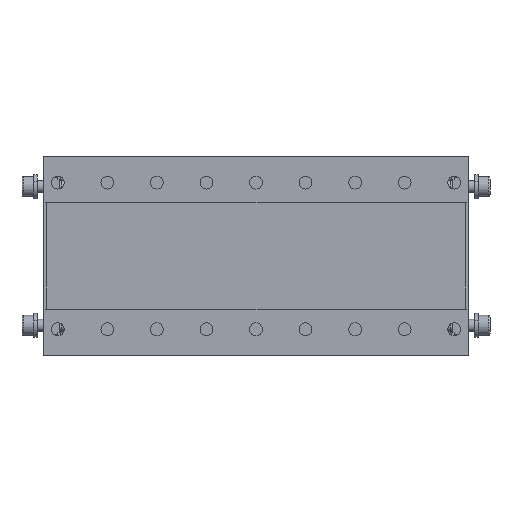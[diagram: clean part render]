
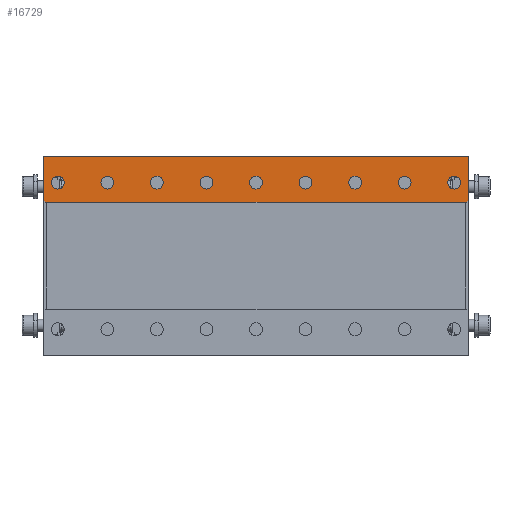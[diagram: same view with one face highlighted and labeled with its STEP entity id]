
A CAD part, top view. The second image highlights one B-rep face of the part: STEP entity #16729.
In plain terms, the highlighted planar face has unit normal (0, 0, 1).
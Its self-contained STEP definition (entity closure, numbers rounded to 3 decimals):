
#8851 = VERTEX_POINT('',#8852);
#8852 = CARTESIAN_POINT('',(107.,50.,30.));
#8858 = EDGE_CURVE('',#8859,#8851,#8861,.T.);
#8859 = VERTEX_POINT('',#8860);
#8860 = CARTESIAN_POINT('',(-107.,50.,30.));
#8861 = LINE('',#8862,#8863);
#8862 = CARTESIAN_POINT('',(0.,50.,30.));
#8863 = VECTOR('',#8864,1.);
#8864 = DIRECTION('',(1.,0.,0.));
#15675 = VERTEX_POINT('',#15676);
#15676 = CARTESIAN_POINT('',(107.,28.,30.));
#15682 = EDGE_CURVE('',#8851,#15675,#15683,.T.);
#15683 = LINE('',#15684,#15685);
#15684 = CARTESIAN_POINT('',(107.,50.,30.));
#15685 = VECTOR('',#15686,1.);
#15686 = DIRECTION('',(0.,-1.,0.));
#15699 = EDGE_CURVE('',#15700,#8859,#15702,.T.);
#15700 = VERTEX_POINT('',#15701);
#15701 = CARTESIAN_POINT('',(-107.,28.,30.));
#15702 = LINE('',#15703,#15704);
#15703 = CARTESIAN_POINT('',(-107.,28.,30.));
#15704 = VECTOR('',#15705,1.);
#15705 = DIRECTION('',(0.,1.,0.));
#16729 = ADVANCED_FACE('',(#16730,#16757,#16768,#16779,#16790,#16801,
    #16812,#16823,#16834,#16845),#16856,.F.);
#16730 = FACE_BOUND('',#16731,.F.);
#16731 = EDGE_LOOP('',(#16732,#16733,#16741,#16749,#16755,#16756));
#16732 = ORIENTED_EDGE('',*,*,#15682,.T.);
#16733 = ORIENTED_EDGE('',*,*,#16734,.F.);
#16734 = EDGE_CURVE('',#16735,#15675,#16737,.T.);
#16735 = VERTEX_POINT('',#16736);
#16736 = CARTESIAN_POINT('',(106.,27.,30.));
#16737 = LINE('',#16738,#16739);
#16738 = CARTESIAN_POINT('',(107.,28.,30.));
#16739 = VECTOR('',#16740,1.);
#16740 = DIRECTION('',(0.707,0.707,0.
    ));
#16741 = ORIENTED_EDGE('',*,*,#16742,.F.);
#16742 = EDGE_CURVE('',#16743,#16735,#16745,.T.);
#16743 = VERTEX_POINT('',#16744);
#16744 = CARTESIAN_POINT('',(-106.,27.,30.));
#16745 = LINE('',#16746,#16747);
#16746 = CARTESIAN_POINT('',(0.,27.,30.));
#16747 = VECTOR('',#16748,1.);
#16748 = DIRECTION('',(1.,0.,0.));
#16749 = ORIENTED_EDGE('',*,*,#16750,.F.);
#16750 = EDGE_CURVE('',#15700,#16743,#16751,.T.);
#16751 = LINE('',#16752,#16753);
#16752 = CARTESIAN_POINT('',(-106.,27.,30.));
#16753 = VECTOR('',#16754,1.);
#16754 = DIRECTION('',(0.707,-0.707,0.
    ));
#16755 = ORIENTED_EDGE('',*,*,#15699,.T.);
#16756 = ORIENTED_EDGE('',*,*,#8858,.T.);
#16757 = FACE_BOUND('',#16758,.F.);
#16758 = EDGE_LOOP('',(#16759));
#16759 = ORIENTED_EDGE('',*,*,#16760,.F.);
#16760 = EDGE_CURVE('',#16761,#16761,#16763,.T.);
#16761 = VERTEX_POINT('',#16762);
#16762 = CARTESIAN_POINT('',(103.25,37.,30.));
#16763 = CIRCLE('',#16764,3.25);
#16764 = AXIS2_PLACEMENT_3D('',#16765,#16766,#16767);
#16765 = CARTESIAN_POINT('',(100.,37.,30.));
#16766 = DIRECTION('',(0.,0.,-1.));
#16767 = DIRECTION('',(1.,0.,0.));
#16768 = FACE_BOUND('',#16769,.F.);
#16769 = EDGE_LOOP('',(#16770));
#16770 = ORIENTED_EDGE('',*,*,#16771,.F.);
#16771 = EDGE_CURVE('',#16772,#16772,#16774,.T.);
#16772 = VERTEX_POINT('',#16773);
#16773 = CARTESIAN_POINT('',(-96.75,37.,30.));
#16774 = CIRCLE('',#16775,3.25);
#16775 = AXIS2_PLACEMENT_3D('',#16776,#16777,#16778);
#16776 = CARTESIAN_POINT('',(-100.,37.,30.));
#16777 = DIRECTION('',(0.,0.,-1.));
#16778 = DIRECTION('',(1.,0.,0.));
#16779 = FACE_BOUND('',#16780,.F.);
#16780 = EDGE_LOOP('',(#16781));
#16781 = ORIENTED_EDGE('',*,*,#16782,.F.);
#16782 = EDGE_CURVE('',#16783,#16783,#16785,.T.);
#16783 = VERTEX_POINT('',#16784);
#16784 = CARTESIAN_POINT('',(-71.75,37.,30.));
#16785 = CIRCLE('',#16786,3.25);
#16786 = AXIS2_PLACEMENT_3D('',#16787,#16788,#16789);
#16787 = CARTESIAN_POINT('',(-75.,37.,30.));
#16788 = DIRECTION('',(0.,0.,-1.));
#16789 = DIRECTION('',(1.,0.,0.));
#16790 = FACE_BOUND('',#16791,.F.);
#16791 = EDGE_LOOP('',(#16792));
#16792 = ORIENTED_EDGE('',*,*,#16793,.F.);
#16793 = EDGE_CURVE('',#16794,#16794,#16796,.T.);
#16794 = VERTEX_POINT('',#16795);
#16795 = CARTESIAN_POINT('',(-46.75,37.,30.));
#16796 = CIRCLE('',#16797,3.25);
#16797 = AXIS2_PLACEMENT_3D('',#16798,#16799,#16800);
#16798 = CARTESIAN_POINT('',(-50.,37.,30.));
#16799 = DIRECTION('',(0.,0.,-1.));
#16800 = DIRECTION('',(1.,0.,0.));
#16801 = FACE_BOUND('',#16802,.F.);
#16802 = EDGE_LOOP('',(#16803));
#16803 = ORIENTED_EDGE('',*,*,#16804,.F.);
#16804 = EDGE_CURVE('',#16805,#16805,#16807,.T.);
#16805 = VERTEX_POINT('',#16806);
#16806 = CARTESIAN_POINT('',(-21.75,37.,30.));
#16807 = CIRCLE('',#16808,3.25);
#16808 = AXIS2_PLACEMENT_3D('',#16809,#16810,#16811);
#16809 = CARTESIAN_POINT('',(-25.,37.,30.));
#16810 = DIRECTION('',(0.,0.,-1.));
#16811 = DIRECTION('',(1.,0.,0.));
#16812 = FACE_BOUND('',#16813,.F.);
#16813 = EDGE_LOOP('',(#16814));
#16814 = ORIENTED_EDGE('',*,*,#16815,.F.);
#16815 = EDGE_CURVE('',#16816,#16816,#16818,.T.);
#16816 = VERTEX_POINT('',#16817);
#16817 = CARTESIAN_POINT('',(3.25,37.,30.));
#16818 = CIRCLE('',#16819,3.25);
#16819 = AXIS2_PLACEMENT_3D('',#16820,#16821,#16822);
#16820 = CARTESIAN_POINT('',(0.,37.,30.));
#16821 = DIRECTION('',(0.,0.,-1.));
#16822 = DIRECTION('',(1.,0.,0.));
#16823 = FACE_BOUND('',#16824,.F.);
#16824 = EDGE_LOOP('',(#16825));
#16825 = ORIENTED_EDGE('',*,*,#16826,.F.);
#16826 = EDGE_CURVE('',#16827,#16827,#16829,.T.);
#16827 = VERTEX_POINT('',#16828);
#16828 = CARTESIAN_POINT('',(28.25,37.,30.));
#16829 = CIRCLE('',#16830,3.25);
#16830 = AXIS2_PLACEMENT_3D('',#16831,#16832,#16833);
#16831 = CARTESIAN_POINT('',(25.,37.,30.));
#16832 = DIRECTION('',(0.,0.,-1.));
#16833 = DIRECTION('',(1.,0.,0.));
#16834 = FACE_BOUND('',#16835,.F.);
#16835 = EDGE_LOOP('',(#16836));
#16836 = ORIENTED_EDGE('',*,*,#16837,.F.);
#16837 = EDGE_CURVE('',#16838,#16838,#16840,.T.);
#16838 = VERTEX_POINT('',#16839);
#16839 = CARTESIAN_POINT('',(53.25,37.,30.));
#16840 = CIRCLE('',#16841,3.25);
#16841 = AXIS2_PLACEMENT_3D('',#16842,#16843,#16844);
#16842 = CARTESIAN_POINT('',(50.,37.,30.));
#16843 = DIRECTION('',(0.,0.,-1.));
#16844 = DIRECTION('',(1.,0.,0.));
#16845 = FACE_BOUND('',#16846,.F.);
#16846 = EDGE_LOOP('',(#16847));
#16847 = ORIENTED_EDGE('',*,*,#16848,.F.);
#16848 = EDGE_CURVE('',#16849,#16849,#16851,.T.);
#16849 = VERTEX_POINT('',#16850);
#16850 = CARTESIAN_POINT('',(78.25,37.,30.));
#16851 = CIRCLE('',#16852,3.25);
#16852 = AXIS2_PLACEMENT_3D('',#16853,#16854,#16855);
#16853 = CARTESIAN_POINT('',(75.,37.,30.));
#16854 = DIRECTION('',(0.,0.,-1.));
#16855 = DIRECTION('',(1.,0.,0.));
#16856 = PLANE('',#16857);
#16857 = AXIS2_PLACEMENT_3D('',#16858,#16859,#16860);
#16858 = CARTESIAN_POINT('',(0.,0.,30.));
#16859 = DIRECTION('',(0.,0.,-1.));
#16860 = DIRECTION('',(0.,1.,0.));
